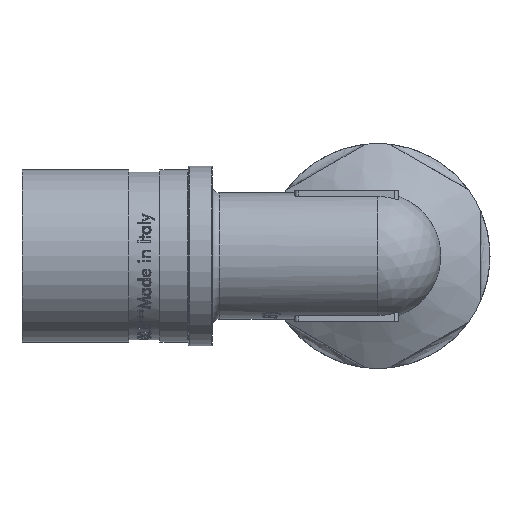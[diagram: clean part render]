
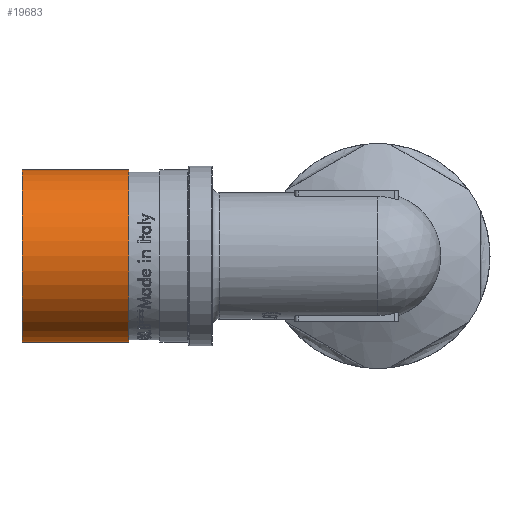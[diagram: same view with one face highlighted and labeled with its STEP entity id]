
A CAD part, front view. The second image highlights one B-rep face of the part: STEP entity #19683.
In plain terms, the highlighted cylindrical face has radius 12.5 mm (diameter 25 mm), a full revolution.
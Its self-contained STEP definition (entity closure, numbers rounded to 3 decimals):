
#1394=CIRCLE('',#20628,12.5);
#1395=CIRCLE('',#20629,12.5);
#1396=CIRCLE('',#20631,12.5);
#1397=CIRCLE('',#20632,12.5);
#2573=FACE_OUTER_BOUND('',#3745,.T.);
#3745=EDGE_LOOP('',(#18193,#18194,#18195,#18196,#18197,#18198));
#6255=LINE('',#45545,#7698);
#7698=VECTOR('',#24010,12.5);
#9573=VERTEX_POINT('',#45536);
#9574=VERTEX_POINT('',#45537);
#9575=VERTEX_POINT('',#45541);
#9576=VERTEX_POINT('',#45542);
#12479=EDGE_CURVE('',#9573,#9574,#1394,.T.);
#12480=EDGE_CURVE('',#9574,#9573,#1395,.T.);
#12481=EDGE_CURVE('',#9575,#9576,#1396,.T.);
#12482=EDGE_CURVE('',#9576,#9575,#1397,.T.);
#12483=EDGE_CURVE('',#9576,#9574,#6255,.T.);
#18193=ORIENTED_EDGE('',*,*,#12481,.F.);
#18194=ORIENTED_EDGE('',*,*,#12482,.F.);
#18195=ORIENTED_EDGE('',*,*,#12483,.T.);
#18196=ORIENTED_EDGE('',*,*,#12480,.T.);
#18197=ORIENTED_EDGE('',*,*,#12479,.T.);
#18198=ORIENTED_EDGE('',*,*,#12483,.F.);
#18648=CYLINDRICAL_SURFACE('',#20630,12.5);
#19683=ADVANCED_FACE('',(#2573),#18648,.T.);
#20628=AXIS2_PLACEMENT_3D('',#45538,#24000,#24001);
#20629=AXIS2_PLACEMENT_3D('',#45539,#24002,#24003);
#20630=AXIS2_PLACEMENT_3D('',#45540,#24004,#24005);
#20631=AXIS2_PLACEMENT_3D('',#45543,#24006,#24007);
#20632=AXIS2_PLACEMENT_3D('',#45544,#24008,#24009);
#24000=DIRECTION('center_axis',(1.,0.,0.));
#24001=DIRECTION('ref_axis',(0.,0.,-1.));
#24002=DIRECTION('center_axis',(1.,0.,0.));
#24003=DIRECTION('ref_axis',(0.,0.,-1.));
#24004=DIRECTION('center_axis',(1.,0.,0.));
#24005=DIRECTION('ref_axis',(0.,1.,0.));
#24006=DIRECTION('center_axis',(1.,0.,0.));
#24007=DIRECTION('ref_axis',(0.,0.,-1.));
#24008=DIRECTION('center_axis',(1.,0.,0.));
#24009=DIRECTION('ref_axis',(0.,0.,-1.));
#24010=DIRECTION('',(-1.,0.,0.));
#45536=CARTESIAN_POINT('',(-51.561,12.5,0.));
#45537=CARTESIAN_POINT('',(-51.561,-12.5,0.));
#45538=CARTESIAN_POINT('Origin',(-51.561,0.,0.));
#45539=CARTESIAN_POINT('Origin',(-51.561,0.,0.));
#45540=CARTESIAN_POINT('Origin',(-43.811,0.,0.));
#45541=CARTESIAN_POINT('',(-36.061,12.5,0.));
#45542=CARTESIAN_POINT('',(-36.061,-12.5,0.));
#45543=CARTESIAN_POINT('Origin',(-36.061,0.,0.));
#45544=CARTESIAN_POINT('Origin',(-36.061,0.,0.));
#45545=CARTESIAN_POINT('',(-43.811,-12.5,0.));
